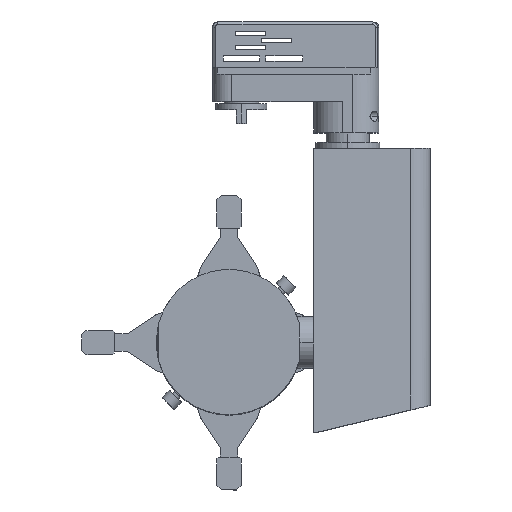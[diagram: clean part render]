
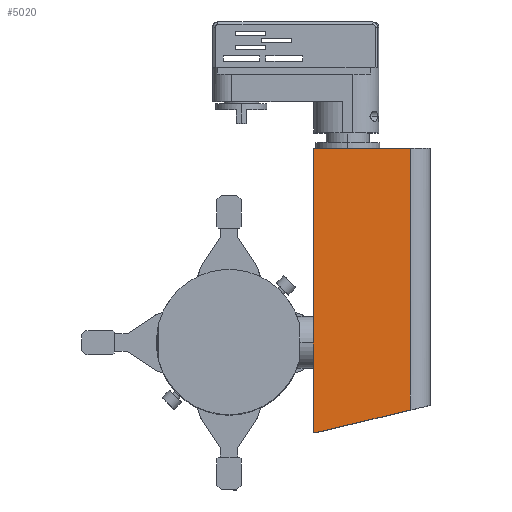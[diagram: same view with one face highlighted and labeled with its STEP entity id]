
A CAD part, top view. The second image highlights one B-rep face of the part: STEP entity #5020.
In plain terms, the highlighted planar face has unit normal (0.037, 0, 0.999).
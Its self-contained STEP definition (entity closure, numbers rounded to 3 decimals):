
#99 = ORIENTED_EDGE ( 'NONE', *, *, #2756, .T. ) ;
#222 = CARTESIAN_POINT ( 'NONE',  ( 15.954, -51.008, 37.7 ) ) ;
#517 = CARTESIAN_POINT ( 'NONE',  ( 9.3, 112., 37.945 ) ) ;
#562 = PLANE ( 'NONE',  #2745 ) ;
#1450 = DIRECTION ( 'NONE',  ( -0.999, 0., 0.037 ) ) ;
#1469 = CARTESIAN_POINT ( 'NONE',  ( 11.8, -52., 37.853 ) ) ;
#2745 = AXIS2_PLACEMENT_3D ( 'NONE', #6925, #8814, #8772 ) ;
#2756 = EDGE_CURVE ( 'NONE', #10022, #10303, #5091, .T. ) ;
#3125 = EDGE_LOOP ( 'NONE', ( #11822, #5761, #7768, #99, #10554 ) ) ;
#3402 = LINE ( 'NONE', #10136, #6087 ) ;
#3614 = VERTEX_POINT ( 'NONE', #1469 ) ;
#3721 = DIRECTION ( 'NONE',  ( 0., 1., 0. ) ) ;
#3896 = VERTEX_POINT ( 'NONE', #10384 ) ;
#4676 = LINE ( 'NONE', #6673, #9318 ) ;
#5020 = ADVANCED_FACE ( 'NONE', ( #11001 ), #562, .F. ) ;
#5091 = LINE ( 'NONE', #9745, #8285 ) ;
#5149 = DIRECTION ( 'NONE',  ( 0., -1., 0. ) ) ;
#5254 = EDGE_CURVE ( 'NONE', #3896, #8934, #3402, .T. ) ;
#5353 = EDGE_CURVE ( 'NONE', #3896, #3614, #8001, .T. ) ;
#5484 = EDGE_CURVE ( 'NONE', #8934, #10022, #4676, .T. ) ;
#5536 = CARTESIAN_POINT ( 'NONE',  ( 9.3, -52., 37.945 ) ) ;
#5749 = DIRECTION ( 'NONE',  ( -0.972, -0.232, 0.036 ) ) ;
#5761 = ORIENTED_EDGE ( 'NONE', *, *, #5254, .T. ) ;
#6087 = VECTOR ( 'NONE', #3721, 1000. ) ;
#6364 = VECTOR ( 'NONE', #1450, 1000. ) ;
#6673 = CARTESIAN_POINT ( 'NONE',  ( 9.3, 112., 37.945 ) ) ;
#6925 = CARTESIAN_POINT ( 'NONE',  ( 9.3, -101.8, 37.945 ) ) ;
#7532 = LINE ( 'NONE', #10838, #6364 ) ;
#7561 = CARTESIAN_POINT ( 'NONE',  ( 65.542, 112., 35.871 ) ) ;
#7604 = EDGE_CURVE ( 'NONE', #3614, #10303, #7532, .T. ) ;
#7768 = ORIENTED_EDGE ( 'NONE', *, *, #5484, .T. ) ;
#8001 = LINE ( 'NONE', #222, #11052 ) ;
#8285 = VECTOR ( 'NONE', #5149, 1000. ) ;
#8772 = DIRECTION ( 'NONE',  ( -0.999, 0., 0.037 ) ) ;
#8814 = DIRECTION ( 'NONE',  ( -0.037, 0., -0.999 ) ) ;
#8934 = VERTEX_POINT ( 'NONE', #7561 ) ;
#9318 = VECTOR ( 'NONE', #11235, 1000. ) ;
#9745 = CARTESIAN_POINT ( 'NONE',  ( 9.3, -52., 37.945 ) ) ;
#10022 = VERTEX_POINT ( 'NONE', #517 ) ;
#10136 = CARTESIAN_POINT ( 'NONE',  ( 65.542, -101.8, 35.871 ) ) ;
#10303 = VERTEX_POINT ( 'NONE', #5536 ) ;
#10384 = CARTESIAN_POINT ( 'NONE',  ( 65.542, -39.161, 35.871 ) ) ;
#10554 = ORIENTED_EDGE ( 'NONE', *, *, #7604, .F. ) ;
#10838 = CARTESIAN_POINT ( 'NONE',  ( 77.008, -52., 35.448 ) ) ;
#11001 = FACE_OUTER_BOUND ( 'NONE', #3125, .T. ) ;
#11052 = VECTOR ( 'NONE', #5749, 1000. ) ;
#11235 = DIRECTION ( 'NONE',  ( -0.999, 0., 0.037 ) ) ;
#11822 = ORIENTED_EDGE ( 'NONE', *, *, #5353, .F. ) ;
